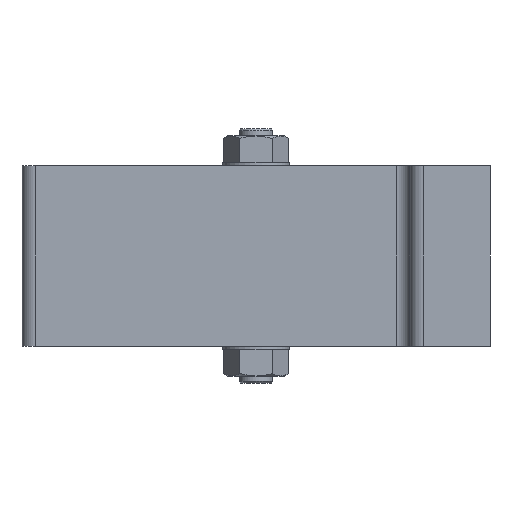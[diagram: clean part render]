
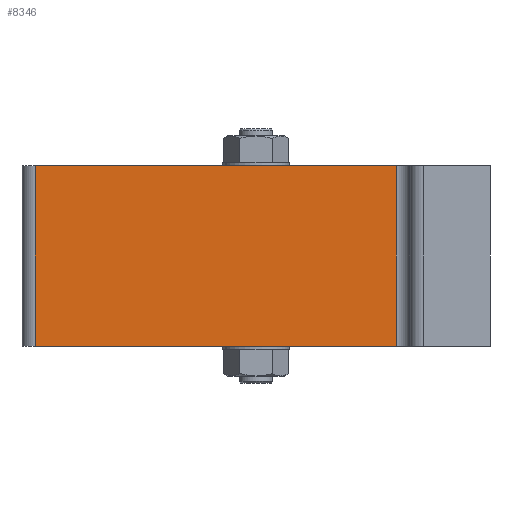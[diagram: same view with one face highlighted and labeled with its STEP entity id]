
A CAD part, left-side view. The second image highlights one B-rep face of the part: STEP entity #8346.
In plain terms, the highlighted planar face has unit normal (-1, 0, 0).
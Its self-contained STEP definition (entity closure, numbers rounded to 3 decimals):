
#6411=CARTESIAN_POINT('',(-70.,66.,54.0));
#6412=VERTEX_POINT('',#6411);
#6420=CARTESIAN_POINT('',(-70.,-42.,54.0));
#6421=VERTEX_POINT('',#6420);
#6422=CARTESIAN_POINT('',(-70.,-42.,54.0));
#6423=DIRECTION('',(0.0,1.0,0.0));
#6424=VECTOR('',#6423,108.0);
#6425=LINE('',#6422,#6424);
#6426=EDGE_CURVE('',#6421,#6412,#6425,.T.);
#8304=CARTESIAN_POINT('',(-70.,-42.,0.0));
#8305=VERTEX_POINT('',#8304);
#8306=CARTESIAN_POINT('',(-70.,-42.,0.0));
#8307=DIRECTION('',(0.0,0.0,1.0));
#8308=VECTOR('',#8307,54.0);
#8309=LINE('',#8306,#8308);
#8310=EDGE_CURVE('',#8305,#6421,#8309,.T.);
#8323=CARTESIAN_POINT('',(-70.,-42.,0.0));
#8324=DIRECTION('',(-1.0,0.0,0.0));
#8325=DIRECTION('',(0.0,0.0,1.0));
#8326=AXIS2_PLACEMENT_3D('',#8323,#8324,#8325);
#8327=PLANE('',#8326);
#8328=ORIENTED_EDGE('',*,*,#6426,.T.);
#8329=CARTESIAN_POINT('',(-70.,66.,0.0));
#8330=VERTEX_POINT('',#8329);
#8331=CARTESIAN_POINT('',(-70.,66.,0.0));
#8332=DIRECTION('',(0.0,0.0,1.0));
#8333=VECTOR('',#8332,54.0);
#8334=LINE('',#8331,#8333);
#8335=EDGE_CURVE('',#8330,#6412,#8334,.T.);
#8336=ORIENTED_EDGE('',*,*,#8335,.F.);
#8337=CARTESIAN_POINT('',(-70.,-42.,0.0));
#8338=DIRECTION('',(0.0,1.0,0.0));
#8339=VECTOR('',#8338,108.0);
#8340=LINE('',#8337,#8339);
#8341=EDGE_CURVE('',#8305,#8330,#8340,.T.);
#8342=ORIENTED_EDGE('',*,*,#8341,.F.);
#8343=ORIENTED_EDGE('',*,*,#8310,.T.);
#8344=EDGE_LOOP('',(#8328,#8336,#8342,#8343));
#8345=FACE_OUTER_BOUND('',#8344,.T.);
#8346=ADVANCED_FACE('',(#8345),#8327,.T.);
